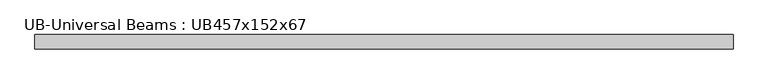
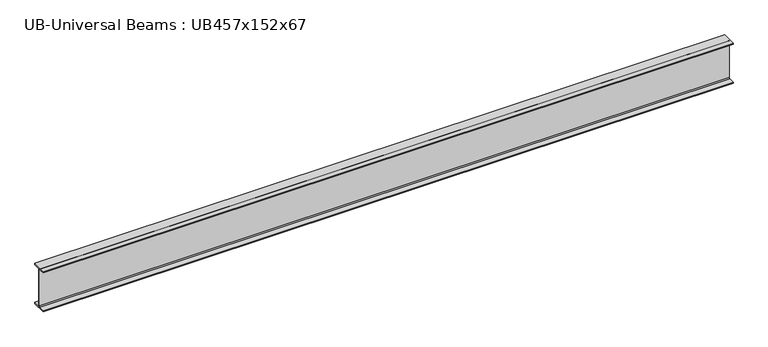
"""IFC4 building model written with IfcOpenShell, lengths in millimetres: beam geometry, UB-Universal Beams : UB457x152x67."""

import ifcopenshell
import ifcopenshell.guid

model = None  # the IFC model being written
_history = None  # IfcOwnerHistory: only IFC2X3 demands one
_inside = {}  # id of a spatial element -> (the spatial element, [elements in it])
_under = {}  # id of a project, library or spatial element -> (it, [spatial elements below it])
_declared = {}  # id of a project -> (the project, [libraries it declares])
_typed = {}  # id of a type object -> (the type object, [elements of that type])
_made_of = {}  # id of a material, layer set ... -> (it, [elements and type objects made of it])


def new_model(schema):
    """Start an empty IFC model of exactly this schema.

    Asked for "IFC4X3", IfcOpenShell would pick the latest addendum, in which some entities
    have other attributes; the version numbers below select the first issue.
    IFC2X3 requires an IfcOwnerHistory on every rooted entity: one is made here for all.
    """
    global model, _history
    if schema == "IFC4X3":
        model = ifcopenshell.file(schema_version=(4, 3, 0, 0))
    else:
        model = ifcopenshell.file(schema=schema)
    _inside.clear()
    _under.clear()
    _declared.clear()
    _typed.clear()
    _made_of.clear()
    _history = None
    if model.schema == "IFC2X3":
        org = make("IfcOrganization", Name="unknown")
        user = make(
            "IfcPersonAndOrganization",
            ThePerson=make("IfcPerson", FamilyName="unknown"),
            TheOrganization=org,
        )
        app = make(
            "IfcApplication",
            ApplicationDeveloper=org,
            Version="unknown",
            ApplicationFullName="unknown",
            ApplicationIdentifier="unknown",
        )
        _history = make(
            "IfcOwnerHistory",
            OwningUser=user,
            OwningApplication=app,
            ChangeAction="ADDED",
            CreationDate=0,
        )
    return model


def make(cls, **values):
    """One entity of the class cls with the attributes given. An attribute that is None is left unset."""
    return model.create_entity(
        cls, **{name: value for name, value in values.items() if value is not None}
    )


def rooted(cls, **values):
    """An entity with a GlobalId (a new one), such as an element, a storey or a relation."""
    return make(cls, GlobalId=ifcopenshell.guid.new(), OwnerHistory=_history, **values)


def si_unit(unit_type, name, prefix=None):
    """IfcSIUnit, for example si_unit("LENGTHUNIT", "METRE", prefix="MILLI")."""
    return make("IfcSIUnit", UnitType=unit_type, Prefix=prefix, Name=name)


def assignment(units):
    """IfcUnitAssignment: the units of a project."""
    return None if units is None else make("IfcUnitAssignment", Units=units)


def point(xyz):
    """IfcCartesianPoint."""
    return None if xyz is None else make("IfcCartesianPoint", Coordinates=xyz)


def direction(xyz):
    """IfcDirection."""
    return None if xyz is None else make("IfcDirection", DirectionRatios=xyz)


def frame(location, z_axis=None, x_axis=None):
    """IfcAxis2Placement3D, a coordinate frame: its origin and axes. An axis left out is left unset."""
    return make(
        "IfcAxis2Placement3D",
        Location=point(location),
        Axis=direction(z_axis),
        RefDirection=direction(x_axis),
    )


def frame_2d(location, x_axis=None):
    """IfcAxis2Placement2D, a coordinate frame in the plane: its origin and x axis."""
    return make(
        "IfcAxis2Placement2D", Location=point(location), RefDirection=direction(x_axis)
    )


def origin():
    """The frame at (0, 0, 0) with its axes left unset."""
    return frame((0.0, 0.0, 0.0))


def place(relative_to, where):
    """IfcLocalPlacement: puts the frame where relative to a parent placement (None: the world)."""
    return make(
        "IfcLocalPlacement", PlacementRelTo=relative_to, RelativePlacement=where
    )


def context(
    kind, dimensions, precision=None, world=None, true_north=None, identifier=None
):
    """IfcGeometricRepresentationContext, for example the 3D "Model" context."""
    return make(
        "IfcGeometricRepresentationContext",
        ContextIdentifier=identifier,
        ContextType=kind,
        CoordinateSpaceDimension=dimensions,
        Precision=precision,
        WorldCoordinateSystem=world,
        TrueNorth=true_north,
    )


def project(units=None, contexts=None):
    """IfcProject with its units and contexts."""
    return rooted(
        "IfcProject",
        Name="project",
        RepresentationContexts=contexts,
        UnitsInContext=assignment(units),
    )


def spatial(cls, under=None, at=None, **own):
    """A site, building, storey or space (cls), placed at a placement, below another one or the project."""
    s = rooted(cls, ObjectPlacement=at, **own)
    if under is not None:
        _under.setdefault(under.id(), (under, []))[1].append(s)
    return s


def polyline(points):
    """IfcPolyline through the points."""
    return make("IfcPolyline", Points=[point(p) for p in points])


def circle_curve(where, radius):
    """IfcCircle in the frame where."""
    return make("IfcCircle", Position=where, Radius=radius)


def trimmed(basis, trim1, trim2, sense, master):
    """IfcTrimmedCurve: the piece of a basis curve between two trims."""
    return make(
        "IfcTrimmedCurve",
        BasisCurve=basis,
        Trim1=trim1,
        Trim2=trim2,
        SenseAgreement=sense,
        MasterRepresentation=master,
    )


def segment(curve, same_sense, transition):
    """IfcCompositeCurveSegment."""
    return make(
        "IfcCompositeCurveSegment",
        Transition=transition,
        SameSense=same_sense,
        ParentCurve=curve,
    )


def composite_curve(segments, self_intersect=None):
    """IfcCompositeCurve: segments joined end to end."""
    return make("IfcCompositeCurve", Segments=segments, SelfIntersect=self_intersect)


def outline(outer, holes=None, kind="AREA"):
    """IfcArbitraryClosedProfileDef: a profile drawn as a closed curve; with holes, ...WithVoids."""
    if holes is None:
        return make("IfcArbitraryClosedProfileDef", ProfileType=kind, OuterCurve=outer)
    return make(
        "IfcArbitraryProfileDefWithVoids",
        ProfileType=kind,
        OuterCurve=outer,
        InnerCurves=holes,
    )


def extrude(swept, where, along, depth):
    """IfcExtrudedAreaSolid: the profile swept, set in the frame where, extruded along a direction by depth."""
    return make(
        "IfcExtrudedAreaSolid",
        SweptArea=swept,
        Position=where,
        ExtrudedDirection=direction(along),
        Depth=depth,
    )


def shape(context_of_items, identifier, shape_type, items):
    """IfcShapeRepresentation: the items that make up one representation, for example the "Body"."""
    return make(
        "IfcShapeRepresentation",
        ContextOfItems=context_of_items,
        RepresentationIdentifier=identifier,
        RepresentationType=shape_type,
        Items=items,
    )


def source(mapping_origin, context_of_items, identifier, shape_type, items):
    """IfcRepresentationMap: a shape defined once, which mapped items show again and again."""
    return make(
        "IfcRepresentationMap",
        MappingOrigin=mapping_origin,
        MappedRepresentation=shape(context_of_items, identifier, shape_type, items),
    )


def transform(
    local_origin,
    x_axis=None,
    y_axis=None,
    z_axis=None,
    scale=None,
    scale2=None,
    scale3=None,
    uniform=True,
):
    """IfcCartesianTransformationOperator3D, or its non-uniform kind. x_axis, y_axis, z_axis: its Axis1, 2, 3."""
    if uniform:
        return make(
            "IfcCartesianTransformationOperator3D",
            Axis1=direction(x_axis),
            Axis2=direction(y_axis),
            LocalOrigin=point(local_origin),
            Scale=scale,
            Axis3=direction(z_axis),
        )
    return make(
        "IfcCartesianTransformationOperator3DnonUniform",
        Axis1=direction(x_axis),
        Axis2=direction(y_axis),
        LocalOrigin=point(local_origin),
        Scale=scale,
        Axis3=direction(z_axis),
        Scale2=scale2,
        Scale3=scale3,
    )


def mapped(mapping_source, mapping_target):
    """IfcMappedItem: shows the shape of a source again, moved by a transform."""
    return make(
        "IfcMappedItem", MappingSource=mapping_source, MappingTarget=mapping_target
    )


def made_of(thing, what):
    """Note that an element or type object is made of a material, layer set ...; save() writes the relation."""
    if what is not None:
        _made_of.setdefault(what.id(), (what, []))[1].append(thing)
    return thing


def element(
    cls,
    number,
    at=None,
    inside=None,
    cuts=None,
    type_object=None,
    material=None,
    context=None,
    identifier="Body",
    shape_type=None,
    held_by="IfcProductDefinitionShape",
    body=None,
    shapes=None,
    **own,
):
    """One element of the class cls, such as IfcWall. Its Tag is "e" and its number.

    at: its placement. inside: the storey or other place that contains it. cuts: it is an
    opening in that element (IfcRelVoidsElement). A single representation is given by context,
    identifier, shape_type and body (its items); several are given by shapes. held_by: the class
    of the entity that holds the representations. save() writes the other relations.
    """
    e = rooted(cls, Tag="e%d" % number, ObjectPlacement=at, **own)
    if body is not None:
        shapes = [shape(context, identifier, shape_type, body)]
    if shapes is not None:
        e.Representation = make(held_by, Representations=shapes)
    if inside is not None:
        _inside.setdefault(inside.id(), (inside, []))[1].append(e)
    if cuts is not None:
        rooted(
            "IfcRelVoidsElement", RelatingBuildingElement=cuts, RelatedOpeningElement=e
        )
    if type_object is not None:
        _typed.setdefault(type_object.id(), (type_object, []))[1].append(e)
    return made_of(e, material)


def aggregate(whole, parts):
    """IfcRelAggregates: a whole, such as a stair, and the parts it consists of."""
    return rooted("IfcRelAggregates", RelatingObject=whole, RelatedObjects=parts)


def save(model, path):
    """Write the relations noted so far, then the file.

    IfcRelAggregates (storeys below a building ...), IfcRelContainedInSpatialStructure (elements
    in a storey), IfcRelDefinesByType, IfcRelAssociatesMaterial and IfcRelDeclares: one each for
    every whole, place, type object, material and project.
    """
    for whole, parts in _under.values():
        aggregate(whole, parts)
    for where, things in _inside.values():
        rooted(
            "IfcRelContainedInSpatialStructure",
            RelatedElements=things,
            RelatingStructure=where,
        )
    for kind, things in _typed.values():
        rooted("IfcRelDefinesByType", RelatedObjects=things, RelatingType=kind)
    for what, things in _made_of.values():
        rooted("IfcRelAssociatesMaterial", RelatedObjects=things, RelatingMaterial=what)
    for by, libraries in _declared.values():
        rooted("IfcRelDeclares", RelatingContext=by, RelatedDefinitions=libraries)
    model.write(path)


def ub_universal_beams_ub457x152x67_412efc86(model_context):
    return source(origin(), model_context, "Body", "SweptSolid", [
        extrude(outline(composite_curve([segment(polyline([(76.9, -214.0), (76.9, -229.0), (-76.9, -229.0), (-76.9, -214.0), (-14.7, -214.0)]), True, "CONTINUOUS"), segment(trimmed(circle_curve(frame_2d((-14.7, -203.8)), 10.2), [point((-14.7, -214.0))], [point((-4.5, -203.8))], True, "CARTESIAN"), True, "CONTINUOUS"), segment(polyline([(-4.5, -203.8), (-4.5, 203.8)]), True, "CONTINUOUS"), segment(trimmed(circle_curve(frame_2d((-14.7, 203.8)), 10.2), [point((-4.5, 203.8))], [point((-14.7, 214.0))], True, "CARTESIAN"), True, "CONTINUOUS"), segment(polyline([(-14.7, 214.0), (-76.9, 214.0), (-76.9, 229.0), (76.9, 229.0), (76.9, 214.0), (14.7, 214.0)]), True, "CONTINUOUS"), segment(trimmed(circle_curve(frame_2d((14.7, 203.8)), 10.2), [point((14.7, 214.0))], [point((4.5, 203.8))], True, "CARTESIAN"), True, "CONTINUOUS"), segment(polyline([(4.5, 203.8), (4.5, -203.8)]), True, "CONTINUOUS"), segment(trimmed(circle_curve(frame_2d((14.7, -203.8)), 10.2), [point((4.5, -203.8))], [point((14.7, -214.0))], True, "CARTESIAN"), True, "CONTINUOUS"), segment(polyline([(14.7, -214.0), (76.9, -214.0)]), True, "CONTINUOUS")], self_intersect=False)), frame((-3730.3, 0.0, 0.0), z_axis=(1.0, 0.0, 0.0), x_axis=(0.0, 1.0, 0.0)), (0.0, 0.0, 1.0), 7413.9),
    ])


if __name__ == "__main__":
    model = new_model("IFC4")
    model_context = context("Model", 3, world=origin())
    ifc_project = project(units=[si_unit("LENGTHUNIT", "METRE", prefix="MILLI")], contexts=[model_context])
    site = spatial("IfcSite", under=ifc_project)
    building = spatial("IfcBuilding", under=site)
    placement = place(None, origin())
    ub_universal_beams_ub457x152x67_shape = ub_universal_beams_ub457x152x67_412efc86(model_context)
    element("IfcBeam", 1, ObjectType="UB-Universal Beams : UB457x152x67", at=placement, inside=building, context=model_context, shape_type="MappedRepresentation", body=[
        mapped(ub_universal_beams_ub457x152x67_shape, transform((0.0, 0.0, 0.0), x_axis=(1.0, 0.0, 0.0), y_axis=(0.0, 1.0, 0.0), z_axis=(0.0, 0.0, 1.0))),
    ])
    save(model, "model.ifc")
